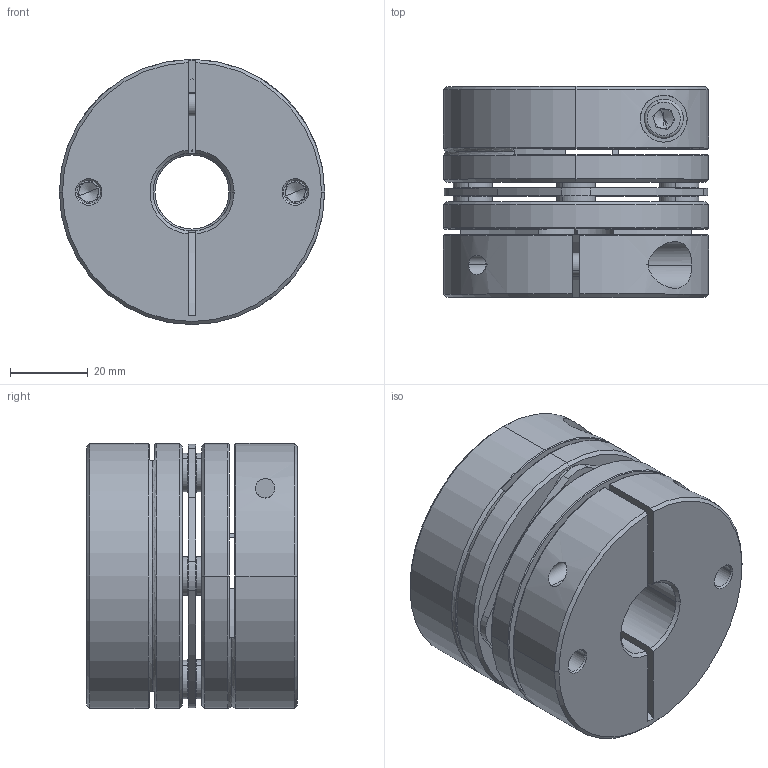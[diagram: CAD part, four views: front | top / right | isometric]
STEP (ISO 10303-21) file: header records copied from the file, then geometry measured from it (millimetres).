
FILE_DESCRIPTION (( 'STEP AP203' ), '1' );
FILE_NAME ('LD1-D68-19-20.STEP', '2021-10-26T07:55:10', ( '' ), ( '' ), 'SwSTEP 2.0', 'SolidWorks 2018', '' );
FILE_SCHEMA (( 'CONFIG_CONTROL_DESIGN' ));
Length unit declared in the file: millimetre
Products named in the file (2): 錨璃101^LD1-D68; LD1-D68-19-20
Assembly tree (1 placements, depth 2):
  LD1-D68-19-20
    錨璃101^LD1-D68
Bounding box: 68 x 54 x 68 mm (x, y, z)
Volume: 151704.1 mm3; surface area: 46938.2 mm2
Topology: 1 solids, 15 shells, 449 faces, 1071 edges, 658 vertices
Faces by surface type: cylinder 165, plane 140, cone 122, torus 22
Entity records: 13597 total; most frequent: CARTESIAN_POINT 2632, DIRECTION 2461, ORIENTED_EDGE 2110, EDGE_CURVE 1055, AXIS2_PLACEMENT_3D 999, VERTEX_POINT 658, CIRCLE 546, EDGE_LOOP 529
